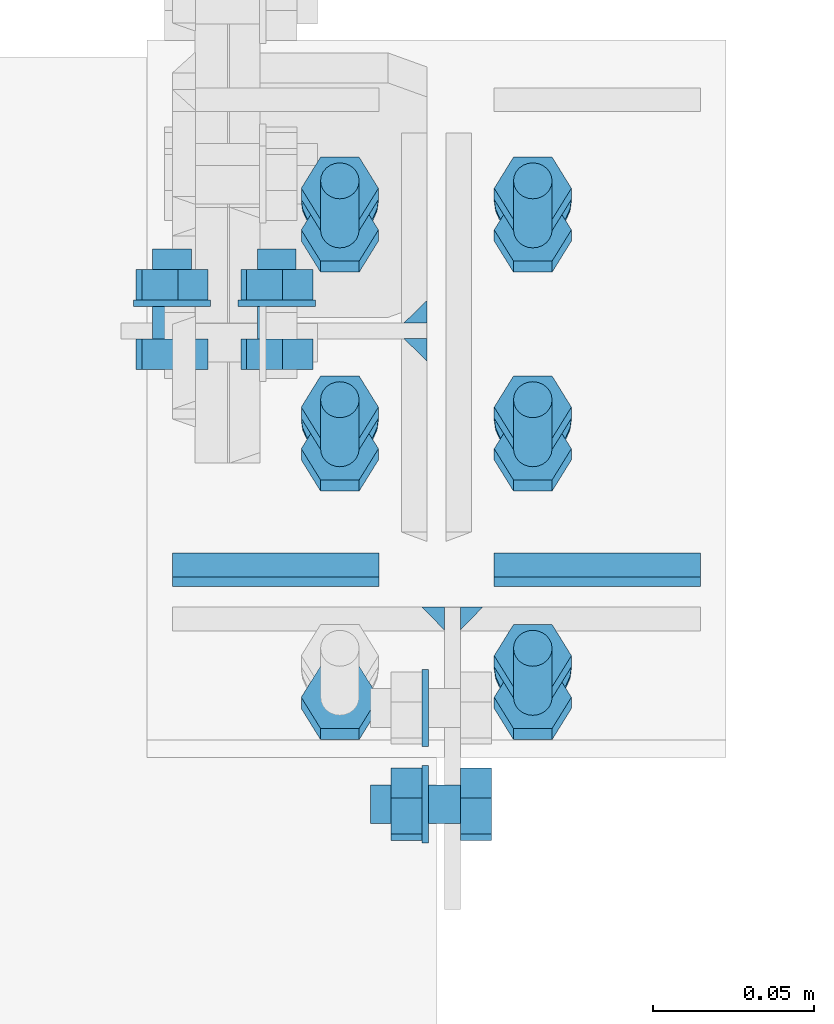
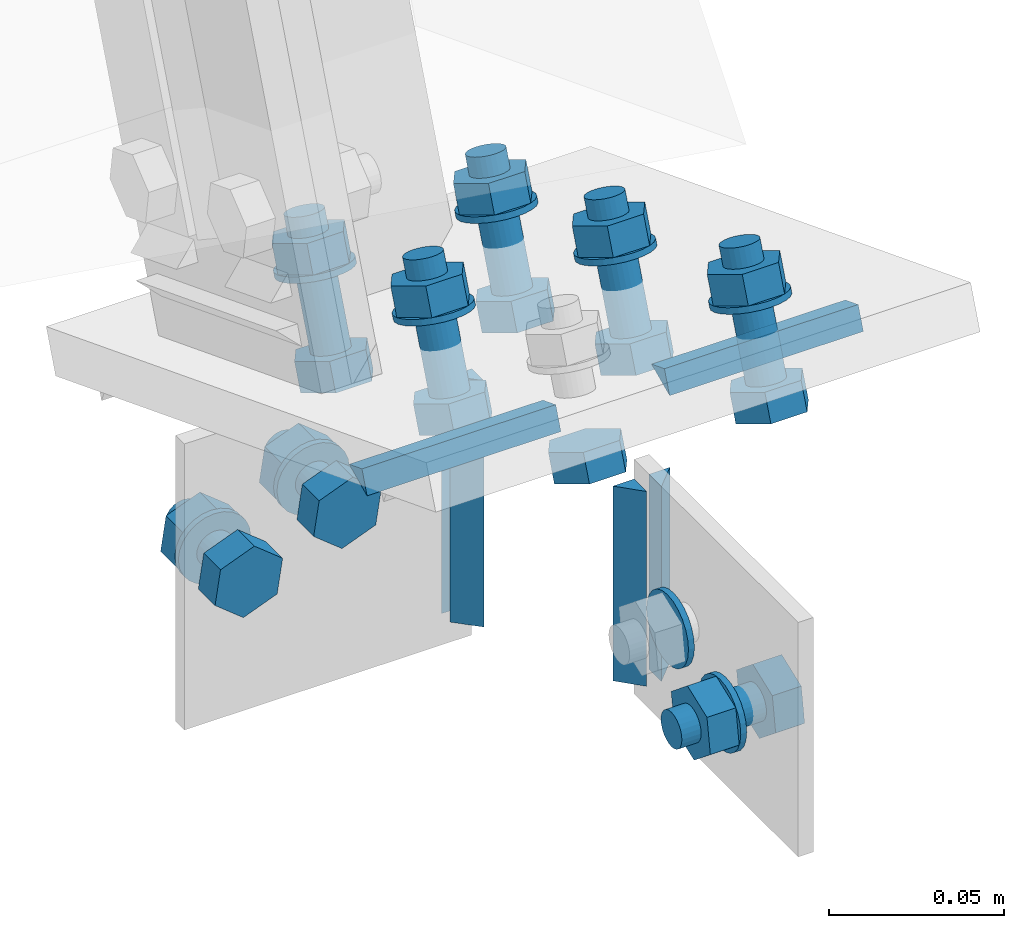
# One storey, part 69 of 72: 34 mechanical fasteners, 8 fasteners.
"""IFC4 building model written with IfcOpenShell, lengths in metres."""

from ifc_helpers import new_model, si_unit, frame, origin_with_axes, place, context, project, spatial, polyline, outline, extrude, type_object, element, save


model = new_model("IFC4")

# Units and contexts
model_context = context("Model", 3, precision=1e-05, world=origin_with_axes())
ifc_project = project(units=[si_unit("LENGTHUNIT", "METRE"), si_unit("AREAUNIT", "SQUARE_METRE"), si_unit("VOLUMEUNIT", "CUBIC_METRE"), si_unit("MASSUNIT", "GRAM", prefix="KILO"), si_unit("TIMEUNIT", "SECOND"), si_unit("PLANEANGLEUNIT", "RADIAN"), si_unit("SOLIDANGLEUNIT", "STERADIAN"), si_unit("THERMODYNAMICTEMPERATUREUNIT", "DEGREE_CELSIUS")], contexts=[model_context])

# Site, building, storey
placement_1 = place(None, origin_with_axes())
site = spatial("IfcSite", under=ifc_project, at=placement_1, Name="Italia", CompositionType="ELEMENT")
building = spatial("IfcBuilding", under=site, at=placement_1, Name="Uffici", CompositionType="ELEMENT")
storey = spatial("IfcBuildingStorey", under=building, at=placement_1, Name="Storey 0", CompositionType="ELEMENT", Elevation=0.0)

# Mechanical fasteners
mechanical_fastener_type_1 = type_object("IfcMechanicalFastenerType", Name="Collegamento 0210_0105", PredefinedType="BOLT")
placement_2 = place(placement_1, origin_with_axes())
mechanical_fastener_1_placement = place(placement_2, origin_with_axes())
element("IfcMechanicalFastener", 1, at=mechanical_fastener_1_placement, inside=storey, type_object=mechanical_fastener_type_1, Name="Collegamento 0210_0105", NominalDiameter=0.024, context=model_context, shape_type="SweptSolid", body=[
    extrude(outline(polyline([(0.0, 0.0), (-0.000409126, -0.00310564), (-0.00160789, -0.00600004), (-0.00351477, -0.00848532), (-0.00600004, -0.0103922), (-0.00889444, -0.011591), (-0.0120001, -0.0120001), (-0.0151057, -0.011591), (-0.0180001, -0.0103922), (-0.0204854, -0.00848532), (-0.0223923, -0.00600004), (-0.023591, -0.00310564), (-0.0240002, 0.0), (-0.023591, 0.00310564), (-0.0223923, 0.00600004), (-0.0204854, 0.00848532), (-0.0180001, 0.0103922), (-0.0151057, 0.011591), (-0.0120001, 0.0120001), (-0.00889444, 0.011591), (-0.00600004, 0.0103922), (-0.00351477, 0.00848532), (-0.00160789, 0.00600004), (-0.000409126, 0.00310564), (0.0, 0.0)])), frame((13.9655, 4.7097, 5.09225), z_axis=(1.0, 0.0, 0.0), x_axis=(0.0, 1.0, 0.0)), (0.0, 0.0, 1.0), 0.00200081),
])
mechanical_fastener_type_2 = type_object("IfcMechanicalFastenerType", Name="Collegamento 0210_0105", PredefinedType="BOLT")
mechanical_fastener_2_placement = place(placement_2, origin_with_axes())
element("IfcMechanicalFastener", 2, at=mechanical_fastener_2_placement, inside=storey, type_object=mechanical_fastener_type_2, Name="Collegamento 0210_0105", NominalDiameter=0.0119996, context=model_context, shape_type="SweptSolid", body=[
    extrude(outline(polyline([(0.0, 0.0), (0.0112205, 0.00425529), (0.0131454, 0.0160995), (0.00385046, 0.0236893), (-0.00736952, 0.0194345), (-0.00929499, 0.00758982), (0.0, 0.0)])), frame((13.9775, 4.66585, 5.06906), z_axis=(1.0, 0.0, 0.0), x_axis=(0.0, 1.0, 0.0)), (0.0, 0.0, 1.0), 0.00960064),
])
mechanical_fastener_type_3 = type_object("IfcMechanicalFastenerType", Name="Collegamento 0210_0105", PredefinedType="BOLT")
mechanical_fastener_3_placement = place(placement_2, origin_with_axes())
element("IfcMechanicalFastener", 3, at=mechanical_fastener_3_placement, inside=storey, type_object=mechanical_fastener_type_3, Name="Collegamento 0210_0105", NominalDiameter=0.012, context=model_context, shape_type="SweptSolid", body=[
    extrude(outline(polyline([(0.0, 0.0), (-0.000204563, -0.00155306), (-0.000803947, -0.00299978), (-0.00175762, -0.00424242), (-0.00300026, -0.00519609), (-0.00444698, -0.00579548), (-0.00600004, -0.00600004), (-0.0075531, -0.00579548), (-0.00899982, -0.00519609), (-0.0102425, -0.00424242), (-0.0111961, -0.00299978), (-0.0117955, -0.00155306), (-0.0120001, 0.0), (-0.0117955, 0.00155306), (-0.0111961, 0.00299978), (-0.0102425, 0.00424242), (-0.00899982, 0.00519609), (-0.0075531, 0.00579548), (-0.00600004, 0.00600004), (-0.00444698, 0.00579548), (-0.00300026, 0.00519609), (-0.00175762, 0.00424242), (-0.000803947, 0.00299978), (-0.000204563, 0.00155306), (0.0, 0.0)])), frame((13.9495, 4.67377, 5.0809), z_axis=(1.0, 0.0, 0.0), x_axis=(0.0, 1.0, 0.0)), (0.0, 0.0, 1.0), 0.0279999),
])
mechanical_fastener_type_4 = type_object("IfcMechanicalFastenerType", Name="Collegamento 0210_0105", PredefinedType="BOLT")
mechanical_fastener_4_placement = place(placement_2, origin_with_axes())
element("IfcMechanicalFastener", 4, at=mechanical_fastener_4_placement, inside=storey, type_object=mechanical_fastener_type_4, Name="Collegamento 0210_0105", NominalDiameter=0.0119996, context=model_context, shape_type="SweptSolid", body=[
    extrude(outline(polyline([(0.0, 0.0), (0.0112205, 0.00425529), (0.0131454, 0.0160995), (0.00385046, 0.0236893), (-0.00736952, 0.0194345), (-0.00929499, 0.00758982), (0.0, 0.0)])), frame((13.9559, 4.66585, 5.06906), z_axis=(1.0, 0.0, 0.0), x_axis=(0.0, 1.0, 0.0)), (0.0, 0.0, 1.0), 0.00959969),
])
mechanical_fastener_type_5 = type_object("IfcMechanicalFastenerType", Name="Collegamento 0210_0105", PredefinedType="BOLT")
mechanical_fastener_5_placement = place(placement_2, origin_with_axes())
element("IfcMechanicalFastener", 5, at=mechanical_fastener_5_placement, inside=storey, type_object=mechanical_fastener_type_5, Name="Collegamento 0210_0105", NominalDiameter=0.024, context=model_context, shape_type="SweptSolid", body=[
    extrude(outline(polyline([(0.0, 0.0), (-0.000409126, -0.00310564), (-0.00160789, -0.00600004), (-0.00351477, -0.00848532), (-0.00600004, -0.0103922), (-0.00889444, -0.011591), (-0.0120001, -0.0120001), (-0.0151057, -0.011591), (-0.0180001, -0.0103922), (-0.0204854, -0.00848532), (-0.0223923, -0.00600004), (-0.023591, -0.00310564), (-0.0240002, 0.0), (-0.023591, 0.00310564), (-0.0223923, 0.00600004), (-0.0204854, 0.00848532), (-0.0180001, 0.0103922), (-0.0151057, 0.011591), (-0.0120001, 0.0120001), (-0.00889444, 0.011591), (-0.00600004, 0.0103922), (-0.00351477, 0.00848532), (-0.00160789, 0.00600004), (-0.000409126, 0.00310564), (0.0, 0.0)])), frame((13.9655, 4.67977, 5.0809), z_axis=(1.0, 0.0, 0.0), x_axis=(0.0, 1.0, 0.0)), (0.0, 0.0, 1.0), 0.00200081),
])

# Fasteners
fastener_type_1 = type_object("IfcFastenerType", Name="Collegamento 0210_0105", PredefinedType="WELD")
fastener_1_placement = place(placement_2, origin_with_axes())
element("IfcFastener", 6, at=fastener_1_placement, inside=storey, type_object=fastener_type_1, Name="Collegamento 0210_0105", context=model_context, shape_type="SweptSolid", body=[
    extrude(outline(polyline([(0.0, 0.0), (-0.00717354, 0.00695801), (0.0, 0.00695801), (0.0, 0.0)])), frame((13.9656, 4.72905, 5.12317), z_axis=(0.0, 0.0, -1.0), x_axis=(0.0, 1.0, 0.0)), (0.0, 0.0, 1.0), 0.0681),
])
fastener_type_2 = type_object("IfcFastenerType", Name="Collegamento 0210_0105", PredefinedType="WELD")
fastener_2_placement = place(placement_2, origin_with_axes())
element("IfcFastener", 7, at=fastener_2_placement, inside=storey, type_object=fastener_type_2, Name="Collegamento 0210_0105", context=model_context, shape_type="SweptSolid", body=[
    extrude(outline(polyline([(0.0, 0.0), (-0.00717354, 0.00695801), (0.0, 0.00695801), (0.0, 0.0)])), frame((13.9844, 4.72905, 5.05507), z_axis=(0.0, 0.0, 1.0), x_axis=(0.0, 1.0, 0.0)), (0.0, 0.0, 1.0), 0.0681005),
])

# Mechanical fasteners
mechanical_fastener_type_6 = type_object("IfcMechanicalFastenerType", Name="Collegamento 0210_0109", PredefinedType="BOLT")
mechanical_fastener_6_placement = place(placement_2, origin_with_axes())
element("IfcMechanicalFastener", 8, at=mechanical_fastener_6_placement, inside=storey, type_object=mechanical_fastener_type_6, Name="Collegamento 0210_0109", NominalDiameter=0.0119997, context=model_context, shape_type="SweptSolid", body=[
    extrude(outline(polyline([(0.0, 0.0), (0.0111799, 0.00436068), (0.0129938, 0.0162225), (0.00362778, 0.0237246), (-0.00755215, 0.0193644), (-0.00936604, 0.00750208), (0.0, 0.0)])), frame((13.9186, 4.8125, 5.07298), z_axis=(0.0, -1.0, 0.0), x_axis=(1.0, 0.0, 0.0)), (0.0, 0.0, 1.0), 0.00959969),
])
mechanical_fastener_type_7 = type_object("IfcMechanicalFastenerType", Name="Collegamento 0210_0109", PredefinedType="BOLT")
mechanical_fastener_7_placement = place(placement_2, origin_with_axes())
element("IfcMechanicalFastener", 9, at=mechanical_fastener_7_placement, inside=storey, type_object=mechanical_fastener_type_7, Name="Collegamento 0210_0109", NominalDiameter=0.012, context=model_context, shape_type="SweptSolid", body=[
    extrude(outline(polyline([(0.0, 0.0), (-0.000204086, -0.00155306), (-0.000802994, -0.00299978), (-0.00175667, -0.00424242), (-0.00299931, -0.00519609), (-0.00444698, -0.00579548), (-0.00599957, -0.00600004), (-0.00755215, -0.00579548), (-0.00899982, -0.00519609), (-0.0102425, -0.00424242), (-0.0111961, -0.00299978), (-0.011795, -0.00155306), (-0.0119991, 0.0), (-0.011795, 0.00155306), (-0.0111961, 0.00299978), (-0.0102425, 0.00424242), (-0.00899982, 0.00519609), (-0.00755215, 0.00579548), (-0.00599957, 0.00600004), (-0.00444698, 0.00579548), (-0.00299931, 0.00519609), (-0.00175667, 0.00424242), (-0.000802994, 0.00299978), (-0.000204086, 0.00155306), (0.0, 0.0)])), frame((13.9264, 4.8405, 5.08484), z_axis=(0.0, -1.0, 0.0), x_axis=(1.0, 0.0, 0.0)), (0.0, 0.0, 1.0), 0.0280004),
])
mechanical_fastener_type_8 = type_object("IfcMechanicalFastenerType", Name="Collegamento 0210_0109", PredefinedType="BOLT")
mechanical_fastener_8_placement = place(placement_2, origin_with_axes())
element("IfcMechanicalFastener", 10, at=mechanical_fastener_8_placement, inside=storey, type_object=mechanical_fastener_type_8, Name="Collegamento 0210_0109", NominalDiameter=0.0119997, context=model_context, shape_type="SweptSolid", body=[
    extrude(outline(polyline([(0.0, 0.0), (0.0111799, 0.00436068), (0.0129938, 0.0162225), (0.00362778, 0.0237246), (-0.00755215, 0.0193644), (-0.00936604, 0.00750208), (0.0, 0.0)])), frame((13.9186, 4.8341, 5.07298), z_axis=(0.0, -1.0, 0.0), x_axis=(1.0, 0.0, 0.0)), (0.0, 0.0, 1.0), 0.00960016),
])
mechanical_fastener_type_9 = type_object("IfcMechanicalFastenerType", Name="Collegamento 0210_0109", PredefinedType="BOLT")
mechanical_fastener_9_placement = place(placement_2, origin_with_axes())
element("IfcMechanicalFastener", 11, at=mechanical_fastener_9_placement, inside=storey, type_object=mechanical_fastener_type_9, Name="Collegamento 0210_0109", NominalDiameter=0.024, context=model_context, shape_type="SweptSolid", body=[
    extrude(outline(polyline([(0.0, 0.0), (-0.000409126, -0.00310564), (-0.00160789, -0.00600004), (-0.00351524, -0.00848532), (-0.00600052, -0.0103922), (-0.00889397, -0.011591), (-0.0120001, -0.0120001), (-0.0151062, -0.011591), (-0.0179996, -0.0103922), (-0.0204849, -0.00848532), (-0.0223923, -0.00600004), (-0.023591, -0.00310564), (-0.0240002, 0.0), (-0.023591, 0.00310564), (-0.0223923, 0.00600004), (-0.0204849, 0.00848532), (-0.0179996, 0.0103922), (-0.0151062, 0.011591), (-0.0120001, 0.0120001), (-0.00889397, 0.011591), (-0.00600052, 0.0103922), (-0.00351524, 0.00848532), (-0.00160789, 0.00600004), (-0.000409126, 0.00310564), (0.0, 0.0)])), frame((13.9324, 4.8245, 5.08484), z_axis=(0.0, -1.0, 0.0), x_axis=(1.0, 0.0, 0.0)), (0.0, 0.0, 1.0), 0.00199986),
])
mechanical_fastener_type_10 = type_object("IfcMechanicalFastenerType", Name="Collegamento 0210_0109", PredefinedType="BOLT")
mechanical_fastener_10_placement = place(placement_2, origin_with_axes())
element("IfcMechanicalFastener", 12, at=mechanical_fastener_10_placement, inside=storey, type_object=mechanical_fastener_type_10, Name="Collegamento 0210_0109", NominalDiameter=0.0119992, context=model_context, shape_type="SweptSolid", body=[
    extrude(outline(polyline([(0.0, 0.0), (0.0111799, 0.0043602), (0.0129929, 0.0162225), (0.00362682, 0.0237241), (-0.00755215, 0.0193639), (-0.00936604, 0.0075016), (0.0, 0.0)])), frame((13.886, 4.8125, 5.06026), z_axis=(0.0, -1.0, 0.0), x_axis=(1.0, 0.0, 0.0)), (0.0, 0.0, 1.0), 0.00959969),
])
mechanical_fastener_type_11 = type_object("IfcMechanicalFastenerType", Name="Collegamento 0210_0109", PredefinedType="BOLT")
mechanical_fastener_11_placement = place(placement_2, origin_with_axes())
element("IfcMechanicalFastener", 13, at=mechanical_fastener_11_placement, inside=storey, type_object=mechanical_fastener_type_11, Name="Collegamento 0210_0109", NominalDiameter=0.012, context=model_context, shape_type="SweptSolid", body=[
    extrude(outline(polyline([(0.0, 0.0), (-0.000204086, -0.00155306), (-0.000802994, -0.00299978), (-0.00175667, -0.00424242), (-0.00299931, -0.00519609), (-0.00444698, -0.00579548), (-0.00599957, -0.00600004), (-0.00755215, -0.00579548), (-0.00899982, -0.00519609), (-0.0102425, -0.00424242), (-0.0111961, -0.00299978), (-0.011795, -0.00155306), (-0.0119991, 0.0), (-0.011795, 0.00155306), (-0.0111961, 0.00299978), (-0.0102425, 0.00424242), (-0.00899982, 0.00519609), (-0.00755215, 0.00579548), (-0.00599957, 0.00600004), (-0.00444698, 0.00579548), (-0.00299931, 0.00519609), (-0.00175667, 0.00424242), (-0.000802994, 0.00299978), (-0.000204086, 0.00155306), (0.0, 0.0)])), frame((13.8938, 4.8405, 5.07212), z_axis=(0.0, -1.0, 0.0), x_axis=(1.0, 0.0, 0.0)), (0.0, 0.0, 1.0), 0.0280004),
])
mechanical_fastener_type_12 = type_object("IfcMechanicalFastenerType", Name="Collegamento 0210_0109", PredefinedType="BOLT")
mechanical_fastener_12_placement = place(placement_2, origin_with_axes())
element("IfcMechanicalFastener", 14, at=mechanical_fastener_12_placement, inside=storey, type_object=mechanical_fastener_type_12, Name="Collegamento 0210_0109", NominalDiameter=0.0119992, context=model_context, shape_type="SweptSolid", body=[
    extrude(outline(polyline([(0.0, 0.0), (0.0111799, 0.0043602), (0.0129929, 0.0162225), (0.00362682, 0.0237241), (-0.00755215, 0.0193639), (-0.00936604, 0.0075016), (0.0, 0.0)])), frame((13.886, 4.8341, 5.06026), z_axis=(0.0, -1.0, 0.0), x_axis=(1.0, 0.0, 0.0)), (0.0, 0.0, 1.0), 0.00960016),
])
mechanical_fastener_type_13 = type_object("IfcMechanicalFastenerType", Name="Collegamento 0210_0109", PredefinedType="BOLT")
mechanical_fastener_13_placement = place(placement_2, origin_with_axes())
element("IfcMechanicalFastener", 15, at=mechanical_fastener_13_placement, inside=storey, type_object=mechanical_fastener_type_13, Name="Collegamento 0210_0109", NominalDiameter=0.024, context=model_context, shape_type="SweptSolid", body=[
    extrude(outline(polyline([(0.0, 0.0), (-0.000409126, -0.00310564), (-0.00160789, -0.00600004), (-0.00351524, -0.00848532), (-0.00600052, -0.0103922), (-0.00889397, -0.011591), (-0.0120001, -0.0120001), (-0.0151062, -0.011591), (-0.0179996, -0.0103922), (-0.0204849, -0.00848532), (-0.0223923, -0.00600004), (-0.023591, -0.00310564), (-0.0240002, 0.0), (-0.023591, 0.00310564), (-0.0223923, 0.00600004), (-0.0204849, 0.00848532), (-0.0179996, 0.0103922), (-0.0151062, 0.011591), (-0.0120001, 0.0120001), (-0.00889397, 0.011591), (-0.00600052, 0.0103922), (-0.00351524, 0.00848532), (-0.00160789, 0.00600004), (-0.000409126, 0.00310564), (0.0, 0.0)])), frame((13.8998, 4.8245, 5.07212), z_axis=(0.0, -1.0, 0.0), x_axis=(1.0, 0.0, 0.0)), (0.0, 0.0, 1.0), 0.00199986),
])

# Fasteners
fastener_type_3 = type_object("IfcFastenerType", Name="Collegamento 0210_0109", PredefinedType="WELD")
fastener_3_placement = place(placement_2, origin_with_axes())
element("IfcFastener", 16, at=fastener_3_placement, inside=storey, type_object=fastener_type_3, Name="Collegamento 0210_0109", context=model_context, shape_type="SweptSolid", body=[
    extrude(outline(polyline([(0.0, 0.0), (-0.00695801, -0.00717258), (-0.00695801, 0.0), (0.0, 0.0)])), frame((13.9671, 4.82441, 5.11306), z_axis=(0.0, 0.0, -1.0), x_axis=(0.0, 1.0, 0.0)), (0.0, 0.0, 1.0), 0.0861006),
])
fastener_type_4 = type_object("IfcFastenerType", Name="Collegamento 0210_0109", PredefinedType="WELD")
fastener_4_placement = place(placement_2, origin_with_axes())
element("IfcFastener", 17, at=fastener_4_placement, inside=storey, type_object=fastener_type_4, Name="Collegamento 0210_0109", context=model_context, shape_type="SweptSolid", body=[
    extrude(outline(polyline([(0.0, 0.0), (0.00695801, 0.00717258), (0.00695801, 0.0), (0.0, 0.0)])), frame((13.9671, 4.80559, 5.02696), z_axis=(0.0, 0.0, 1.0), x_axis=(0.0, 1.0, 0.0)), (0.0, 0.0, 1.0), 0.0861011),
])
fastener_type_5 = type_object("IfcFastenerType", Name="Collegamento 0210_0110", PredefinedType="WELD")
fastener_5_placement = place(placement_2, origin_with_axes())
element("IfcFastener", 18, at=fastener_5_placement, inside=storey, type_object=fastener_type_5, Name="Collegamento 0210_0110", context=model_context, shape_type="SweptSolid", body=[
    extrude(outline(polyline([(0.0, 0.0), (-0.0103469, -0.00475454), (-0.00739193, 0.00286627), (0.0, 0.0)])), frame((13.988, 4.74586, 5.14777), z_axis=(1.0, 0.0, 0.0), x_axis=(0.0, 1.0, 0.0)), (0.0, 0.0, 1.0), 0.0641003),
])
fastener_type_6 = type_object("IfcFastenerType", Name="Collegamento 0210_0110", PredefinedType="WELD")
fastener_6_placement = place(placement_2, origin_with_axes())
element("IfcFastener", 19, at=fastener_6_placement, inside=storey, type_object=fastener_type_6, Name="Collegamento 0210_0110", context=model_context, shape_type="SweptSolid", body=[
    extrude(outline(polyline([(0.0, 0.0), (-0.0103469, -0.00475454), (-0.00739193, 0.00286627), (0.0, 0.0)])), frame((13.888, 4.74586, 5.14777), z_axis=(1.0, 0.0, 0.0), x_axis=(0.0, 1.0, 0.0)), (0.0, 0.0, 1.0), 0.0641003),
])
fastener_type_7 = type_object("IfcFastenerType", Name="Collegamento 0210_0110", PredefinedType="WELD")
fastener_7_placement = place(placement_2, origin_with_axes())
element("IfcFastener", 20, at=fastener_7_placement, inside=storey, type_object=fastener_type_7, Name="Collegamento 0210_0110", context=model_context, shape_type="SweptSolid", body=[
    extrude(outline(polyline([(0.0, 0.0), (-0.0103469, -0.00475454), (-0.00739193, 0.00286627), (0.0, 0.0)])), frame((13.988, 4.74586, 5.14777), z_axis=(1.0, 0.0, 0.0), x_axis=(0.0, 1.0, 0.0)), (0.0, 0.0, 1.0), 0.0641003),
])
fastener_type_8 = type_object("IfcFastenerType", Name="Collegamento 0210_0110", PredefinedType="WELD")
fastener_8_placement = place(placement_2, origin_with_axes())
element("IfcFastener", 21, at=fastener_8_placement, inside=storey, type_object=fastener_type_8, Name="Collegamento 0210_0110", context=model_context, shape_type="SweptSolid", body=[
    extrude(outline(polyline([(0.0, 0.0), (-0.0103469, -0.00475454), (-0.00739193, 0.00286627), (0.0, 0.0)])), frame((13.888, 4.74586, 5.14777), z_axis=(1.0, 0.0, 0.0), x_axis=(0.0, 1.0, 0.0)), (0.0, 0.0, 1.0), 0.0641003),
])

# Mechanical fasteners
mechanical_fastener_type_14 = type_object("IfcMechanicalFastenerType", Name="Collegamento 0210_0110", PredefinedType="BOLT")
mechanical_fastener_14_placement = place(placement_2, origin_with_axes())
element("IfcMechanicalFastener", 22, at=mechanical_fastener_14_placement, inside=storey, type_object=mechanical_fastener_type_14, Name="Collegamento 0210_0110", NominalDiameter=0.0119997, context=model_context, shape_type="SweptSolid", body=[
    extrude(outline(polyline([(0.0, 0.0), (0.0120001, 0.0), (0.0179996, -0.0103922), (0.0120001, -0.0207846), (0.0, -0.0207846), (-0.00600052, -0.0103922), (0.0, 0.0)])), frame((13.994, 4.76862, 5.1389), z_axis=(0.0, -0.361504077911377, -0.932370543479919), x_axis=(1.0, 0.0, 0.0)), (0.0, 0.0, 1.0), 0.00959995),
])
mechanical_fastener_type_15 = type_object("IfcMechanicalFastenerType", Name="Collegamento 0210_0110", PredefinedType="BOLT")
mechanical_fastener_15_placement = place(placement_2, origin_with_axes())
element("IfcMechanicalFastener", 23, at=mechanical_fastener_15_placement, inside=storey, type_object=mechanical_fastener_type_15, Name="Collegamento 0210_0110", NominalDiameter=0.012, context=model_context, shape_type="SweptSolid", body=[
    extrude(outline(polyline([(0.0, 0.0), (-0.000204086, -0.00155282), (-0.000802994, -0.00300002), (-0.00175667, -0.00424314), (-0.00299931, -0.00519633), (-0.00444698, -0.00579524), (-0.00599957, -0.0059998), (-0.00755215, -0.00579524), (-0.00899982, -0.00519633), (-0.0102425, -0.00424314), (-0.0111961, -0.00300002), (-0.011795, -0.00155282), (-0.0119991, 0.0), (-0.011795, 0.00155282), (-0.0111961, 0.00300002), (-0.0102425, 0.0042429), (-0.00899982, 0.00519633), (-0.00755215, 0.00579572), (-0.00599957, 0.0059998), (-0.00444698, 0.00579572), (-0.00299931, 0.00519633), (-0.00175667, 0.0042429), (-0.000802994, 0.00300002), (-0.000204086, 0.00155282), (0.0, 0.0)])), frame((14.006, 4.79357, 5.17448), z_axis=(0.0, -0.361535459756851, -0.932358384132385), x_axis=(1.0, 0.0, 0.0)), (0.0, 0.0, 1.0), 0.0422002),
])
mechanical_fastener_type_16 = type_object("IfcMechanicalFastenerType", Name="Collegamento 0210_0110", PredefinedType="BOLT")
mechanical_fastener_16_placement = place(placement_2, origin_with_axes())
element("IfcMechanicalFastener", 24, at=mechanical_fastener_16_placement, inside=storey, type_object=mechanical_fastener_type_16, Name="Collegamento 0210_0110", NominalDiameter=0.0119997, context=model_context, shape_type="SweptSolid", body=[
    extrude(outline(polyline([(0.0, 0.0), (0.0120001, 0.0), (0.0179996, -0.0103917), (0.0120001, -0.0207844), (0.0, -0.0207844), (-0.00600052, -0.0103917), (0.0, 0.0)])), frame((13.994, 4.78156, 5.17227), z_axis=(0.0, -0.361547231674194, -0.932353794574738), x_axis=(1.0, 0.0, 0.0)), (0.0, 0.0, 1.0), 0.00960012),
])
mechanical_fastener_type_17 = type_object("IfcMechanicalFastenerType", Name="Collegamento 0210_0110", PredefinedType="BOLT")
mechanical_fastener_17_placement = place(placement_2, origin_with_axes())
element("IfcMechanicalFastener", 25, at=mechanical_fastener_17_placement, inside=storey, type_object=mechanical_fastener_type_17, Name="Collegamento 0210_0110", NominalDiameter=0.024, context=model_context, shape_type="SweptSolid", body=[
    extrude(outline(polyline([(0.0, 0.0), (-0.000409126, -0.00310612), (-0.00160789, -0.00600004), (-0.00351524, -0.00848579), (-0.00600052, -0.0103927), (-0.00889397, -0.0115914), (-0.0120001, -0.0120001), (-0.0151062, -0.0115914), (-0.0179996, -0.0103927), (-0.0204849, -0.00848579), (-0.0223923, -0.00600004), (-0.023591, -0.00310612), (-0.0240002, 0.0), (-0.023591, 0.00310564), (-0.0223923, 0.00600004), (-0.0204849, 0.00848532), (-0.0179996, 0.0103922), (-0.0151062, 0.0115914), (-0.0120001, 0.0119996), (-0.00889397, 0.0115914), (-0.00600052, 0.0103922), (-0.00351524, 0.00848532), (-0.00160789, 0.00600004), (-0.000409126, 0.00310564), (0.0, 0.0)])), frame((14.012, 4.78778, 5.15957), z_axis=(0.0, -0.361341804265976, -0.932433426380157), x_axis=(1.0, 0.0, 0.0)), (0.0, 0.0, 1.0), 0.00200056),
])
mechanical_fastener_type_18 = type_object("IfcMechanicalFastenerType", Name="Collegamento 0210_0110", PredefinedType="BOLT")
mechanical_fastener_18_placement = place(placement_2, origin_with_axes())
element("IfcMechanicalFastener", 26, at=mechanical_fastener_18_placement, inside=storey, type_object=mechanical_fastener_type_18, Name="Collegamento 0210_0110", NominalDiameter=0.0119997, context=model_context, shape_type="SweptSolid", body=[
    extrude(outline(polyline([(0.0, 0.0), (0.0120001, 0.0), (0.0180006, -0.0103922), (0.0120001, -0.0207846), (0.0, -0.0207846), (-0.00599957, -0.0103922), (0.0, 0.0)])), frame((13.934, 4.76862, 5.1389), z_axis=(0.0, -0.361504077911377, -0.932370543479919), x_axis=(1.0, 0.0, 0.0)), (0.0, 0.0, 1.0), 0.00959995),
])
mechanical_fastener_type_19 = type_object("IfcMechanicalFastenerType", Name="Collegamento 0210_0110", PredefinedType="BOLT")
mechanical_fastener_19_placement = place(placement_2, origin_with_axes())
element("IfcMechanicalFastener", 27, at=mechanical_fastener_19_placement, inside=storey, type_object=mechanical_fastener_type_19, Name="Collegamento 0210_0110", NominalDiameter=0.012, context=model_context, shape_type="SweptSolid", body=[
    extrude(outline(polyline([(0.0, 0.0), (-0.000204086, -0.00155282), (-0.000802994, -0.00300002), (-0.00175667, -0.00424314), (-0.00299931, -0.00519633), (-0.00444698, -0.00579524), (-0.00599957, -0.0059998), (-0.00755215, -0.00579524), (-0.00899982, -0.00519633), (-0.0102425, -0.00424314), (-0.0111961, -0.00300002), (-0.011795, -0.00155282), (-0.0119991, 0.0), (-0.011795, 0.00155282), (-0.0111961, 0.00300002), (-0.0102425, 0.0042429), (-0.00899982, 0.00519633), (-0.00755215, 0.00579572), (-0.00599957, 0.0059998), (-0.00444698, 0.00579572), (-0.00299931, 0.00519633), (-0.00175667, 0.0042429), (-0.000802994, 0.00300002), (-0.000204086, 0.00155282), (0.0, 0.0)])), frame((13.946, 4.79357, 5.17448), z_axis=(0.0, -0.361535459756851, -0.932358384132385), x_axis=(1.0, 0.0, 0.0)), (0.0, 0.0, 1.0), 0.0422002),
])
mechanical_fastener_type_20 = type_object("IfcMechanicalFastenerType", Name="Collegamento 0210_0110", PredefinedType="BOLT")
mechanical_fastener_20_placement = place(placement_2, origin_with_axes())
element("IfcMechanicalFastener", 28, at=mechanical_fastener_20_placement, inside=storey, type_object=mechanical_fastener_type_20, Name="Collegamento 0210_0110", NominalDiameter=0.0119997, context=model_context, shape_type="SweptSolid", body=[
    extrude(outline(polyline([(0.0, 0.0), (0.0120001, 0.0), (0.0180006, -0.0103927), (0.0120001, -0.0207846), (0.0, -0.0207846), (-0.00599957, -0.0103927), (0.0, 0.0)])), frame((13.934, 4.78156, 5.17227), z_axis=(0.0, -0.361563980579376, -0.932347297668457), x_axis=(1.0, 0.0, 0.0)), (0.0, 0.0, 1.0), 0.00959968),
])
mechanical_fastener_type_21 = type_object("IfcMechanicalFastenerType", Name="Collegamento 0210_0110", PredefinedType="BOLT")
mechanical_fastener_21_placement = place(placement_2, origin_with_axes())
element("IfcMechanicalFastener", 29, at=mechanical_fastener_21_placement, inside=storey, type_object=mechanical_fastener_type_21, Name="Collegamento 0210_0110", NominalDiameter=0.024, context=model_context, shape_type="SweptSolid", body=[
    extrude(outline(polyline([(0.0, 0.0), (-0.000409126, -0.00310612), (-0.00160789, -0.00600004), (-0.00351524, -0.00848579), (-0.00600052, -0.0103927), (-0.00889397, -0.0115914), (-0.0120001, -0.0120001), (-0.0151062, -0.0115914), (-0.0179996, -0.0103927), (-0.0204849, -0.00848579), (-0.0223923, -0.00600004), (-0.023591, -0.00310612), (-0.0240002, 0.0), (-0.023591, 0.00310564), (-0.0223923, 0.00600004), (-0.0204849, 0.00848532), (-0.0179996, 0.0103922), (-0.0151062, 0.0115914), (-0.0120001, 0.0119996), (-0.00889397, 0.0115914), (-0.00600052, 0.0103922), (-0.00351524, 0.00848532), (-0.00160789, 0.00600004), (-0.000409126, 0.00310564), (0.0, 0.0)])), frame((13.952, 4.78778, 5.15957), z_axis=(0.0, -0.361341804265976, -0.932433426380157), x_axis=(1.0, 0.0, 0.0)), (0.0, 0.0, 1.0), 0.00200056),
])
mechanical_fastener_type_22 = type_object("IfcMechanicalFastenerType", Name="Collegamento 0210_0110", PredefinedType="BOLT")
mechanical_fastener_22_placement = place(placement_2, origin_with_axes())
element("IfcMechanicalFastener", 30, at=mechanical_fastener_22_placement, inside=storey, type_object=mechanical_fastener_type_22, Name="Collegamento 0210_0110", NominalDiameter=0.0119997, context=model_context, shape_type="SweptSolid", body=[
    extrude(outline(polyline([(0.0, 0.0), (0.0120001, 0.0), (0.0179996, -0.0103922), (0.0120001, -0.0207849), (0.0, -0.0207849), (-0.00600052, -0.0103922), (0.0, 0.0)])), frame((13.994, 4.83668, 5.1125), z_axis=(0.0, -0.361520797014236, -0.932364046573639), x_axis=(1.0, 0.0, 0.0)), (0.0, 0.0, 1.0), 0.0095995),
])
mechanical_fastener_type_23 = type_object("IfcMechanicalFastenerType", Name="Collegamento 0210_0110", PredefinedType="BOLT")
mechanical_fastener_23_placement = place(placement_2, origin_with_axes())
element("IfcMechanicalFastener", 31, at=mechanical_fastener_23_placement, inside=storey, type_object=mechanical_fastener_type_23, Name="Collegamento 0210_0110", NominalDiameter=0.012, context=model_context, shape_type="SweptSolid", body=[
    extrude(outline(polyline([(0.0, 0.0), (-0.000204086, -0.00155306), (-0.000802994, -0.00300002), (-0.00175667, -0.0042429), (-0.00299931, -0.00519657), (-0.00444698, -0.00579596), (-0.00599957, -0.00600052), (-0.00755215, -0.00579596), (-0.00899982, -0.00519657), (-0.0102425, -0.0042429), (-0.0111961, -0.00300002), (-0.011795, -0.00155306), (-0.0119991, 0.0), (-0.011795, 0.00155258), (-0.0111961, 0.00299978), (-0.0102425, 0.0042429), (-0.00899982, 0.00519609), (-0.00755215, 0.00579548), (-0.00599957, 0.00599957), (-0.00444698, 0.00579548), (-0.00299931, 0.00519609), (-0.00175667, 0.0042429), (-0.000802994, 0.00299978), (-0.000204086, 0.00155258), (0.0, 0.0)])), frame((14.006, 4.86163, 5.14809), z_axis=(0.0, -0.361519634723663, -0.932364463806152), x_axis=(1.0, 0.0, 0.0)), (0.0, 0.0, 1.0), 0.0421994),
])
mechanical_fastener_type_24 = type_object("IfcMechanicalFastenerType", Name="Collegamento 0210_0110", PredefinedType="BOLT")
mechanical_fastener_24_placement = place(placement_2, origin_with_axes())
element("IfcMechanicalFastener", 32, at=mechanical_fastener_24_placement, inside=storey, type_object=mechanical_fastener_type_24, Name="Collegamento 0210_0110", NominalDiameter=0.0119997, context=model_context, shape_type="SweptSolid", body=[
    extrude(outline(polyline([(0.0, 0.0), (0.0120001, 0.0), (0.0179996, -0.0103922), (0.0120001, -0.0207846), (0.0, -0.0207846), (-0.00600052, -0.0103922), (0.0, 0.0)])), frame((13.994, 4.84962, 5.14588), z_axis=(0.0, -0.361504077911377, -0.932370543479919), x_axis=(1.0, 0.0, 0.0)), (0.0, 0.0, 1.0), 0.00959995),
])
mechanical_fastener_type_25 = type_object("IfcMechanicalFastenerType", Name="Collegamento 0210_0110", PredefinedType="BOLT")
mechanical_fastener_25_placement = place(placement_2, origin_with_axes())
element("IfcMechanicalFastener", 33, at=mechanical_fastener_25_placement, inside=storey, type_object=mechanical_fastener_type_25, Name="Collegamento 0210_0110", NominalDiameter=0.024, context=model_context, shape_type="SweptSolid", body=[
    extrude(outline(polyline([(0.0, 0.0), (-0.000409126, -0.00310564), (-0.00160789, -0.00600028), (-0.00351524, -0.00848508), (-0.00600052, -0.0103922), (-0.00889397, -0.011591), (-0.0120001, -0.0120001), (-0.0151062, -0.011591), (-0.0179996, -0.0103922), (-0.0204849, -0.00848508), (-0.0223923, -0.00600028), (-0.023591, -0.00310564), (-0.0240002, 0.0), (-0.023591, 0.00310564), (-0.0223923, 0.00600028), (-0.0204849, 0.00848508), (-0.0179996, 0.0103922), (-0.0151062, 0.011591), (-0.0120001, 0.0120001), (-0.00889397, 0.011591), (-0.00600052, 0.0103922), (-0.00351524, 0.00848508), (-0.00160789, 0.00600028), (-0.000409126, 0.00310564), (0.0, 0.0)])), frame((14.012, 4.85584, 5.13317), z_axis=(0.0, -0.361502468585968, -0.932371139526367), x_axis=(1.0, 0.0, 0.0)), (0.0, 0.0, 1.0), 0.00199967),
])
mechanical_fastener_type_26 = type_object("IfcMechanicalFastenerType", Name="Collegamento 0210_0110", PredefinedType="BOLT")
mechanical_fastener_26_placement = place(placement_2, origin_with_axes())
element("IfcMechanicalFastener", 34, at=mechanical_fastener_26_placement, inside=storey, type_object=mechanical_fastener_type_26, Name="Collegamento 0210_0110", NominalDiameter=0.0119999, context=model_context, shape_type="SweptSolid", body=[
    extrude(outline(polyline([(0.0, 0.0), (0.0120001, 0.0), (0.0180006, -0.0103924), (0.0120001, -0.0207853), (0.0, -0.0207853), (-0.00599957, -0.0103924), (0.0, 0.0)])), frame((13.934, 4.83668, 5.1125), z_axis=(0.0, -0.361504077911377, -0.932370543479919), x_axis=(1.0, 0.0, 0.0)), (0.0, 0.0, 1.0), 0.00959995),
])
mechanical_fastener_type_27 = type_object("IfcMechanicalFastenerType", Name="Collegamento 0210_0110", PredefinedType="BOLT")
mechanical_fastener_27_placement = place(placement_2, origin_with_axes())
element("IfcMechanicalFastener", 35, at=mechanical_fastener_27_placement, inside=storey, type_object=mechanical_fastener_type_27, Name="Collegamento 0210_0110", NominalDiameter=0.012, context=model_context, shape_type="SweptSolid", body=[
    extrude(outline(polyline([(0.0, 0.0), (-0.000204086, -0.00155306), (-0.000802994, -0.00300002), (-0.00175667, -0.0042429), (-0.00299931, -0.00519657), (-0.00444698, -0.00579596), (-0.00599957, -0.00600052), (-0.00755215, -0.00579596), (-0.00899982, -0.00519657), (-0.0102425, -0.0042429), (-0.0111961, -0.00300002), (-0.011795, -0.00155306), (-0.0119991, 0.0), (-0.011795, 0.00155258), (-0.0111961, 0.00299978), (-0.0102425, 0.0042429), (-0.00899982, 0.00519609), (-0.00755215, 0.00579548), (-0.00599957, 0.00599957), (-0.00444698, 0.00579548), (-0.00299931, 0.00519609), (-0.00175667, 0.0042429), (-0.000802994, 0.00299978), (-0.000204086, 0.00155258), (0.0, 0.0)])), frame((13.946, 4.86163, 5.14809), z_axis=(0.0, -0.361519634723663, -0.932364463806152), x_axis=(1.0, 0.0, 0.0)), (0.0, 0.0, 1.0), 0.0421994),
])
mechanical_fastener_type_28 = type_object("IfcMechanicalFastenerType", Name="Collegamento 0210_0110", PredefinedType="BOLT")
mechanical_fastener_28_placement = place(placement_2, origin_with_axes())
element("IfcMechanicalFastener", 36, at=mechanical_fastener_28_placement, inside=storey, type_object=mechanical_fastener_type_28, Name="Collegamento 0210_0110", NominalDiameter=0.0119997, context=model_context, shape_type="SweptSolid", body=[
    extrude(outline(polyline([(0.0, 0.0), (0.0120001, 0.0), (0.0180006, -0.0103924), (0.0120001, -0.0207846), (0.0, -0.0207846), (-0.00599957, -0.0103924), (0.0, 0.0)])), frame((13.934, 4.84962, 5.14588), z_axis=(0.0, -0.361520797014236, -0.932364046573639), x_axis=(1.0, 0.0, 0.0)), (0.0, 0.0, 1.0), 0.0095995),
])
mechanical_fastener_type_29 = type_object("IfcMechanicalFastenerType", Name="Collegamento 0210_0110", PredefinedType="BOLT")
mechanical_fastener_29_placement = place(placement_2, origin_with_axes())
element("IfcMechanicalFastener", 37, at=mechanical_fastener_29_placement, inside=storey, type_object=mechanical_fastener_type_29, Name="Collegamento 0210_0110", NominalDiameter=0.024, context=model_context, shape_type="SweptSolid", body=[
    extrude(outline(polyline([(0.0, 0.0), (-0.000409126, -0.00310564), (-0.00160789, -0.00600028), (-0.00351524, -0.00848508), (-0.00600052, -0.0103922), (-0.00889397, -0.011591), (-0.0120001, -0.0120001), (-0.0151062, -0.011591), (-0.0179996, -0.0103922), (-0.0204849, -0.00848508), (-0.0223923, -0.00600028), (-0.023591, -0.00310564), (-0.0240002, 0.0), (-0.023591, 0.00310564), (-0.0223923, 0.00600028), (-0.0204849, 0.00848508), (-0.0179996, 0.0103922), (-0.0151062, 0.011591), (-0.0120001, 0.0120001), (-0.00889397, 0.011591), (-0.00600052, 0.0103922), (-0.00351524, 0.00848508), (-0.00160789, 0.00600028), (-0.000409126, 0.00310564), (0.0, 0.0)])), frame((13.952, 4.85584, 5.13317), z_axis=(0.0, -0.361502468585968, -0.932371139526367), x_axis=(1.0, 0.0, 0.0)), (0.0, 0.0, 1.0), 0.00199967),
])
mechanical_fastener_type_30 = type_object("IfcMechanicalFastenerType", Name="Collegamento 0210_0110", PredefinedType="BOLT")
mechanical_fastener_30_placement = place(placement_2, origin_with_axes())
element("IfcMechanicalFastener", 38, at=mechanical_fastener_30_placement, inside=storey, type_object=mechanical_fastener_type_30, Name="Collegamento 0210_0110", NominalDiameter=0.0119997, context=model_context, shape_type="SweptSolid", body=[
    extrude(outline(polyline([(0.0, 0.0), (0.0120001, 0.0), (0.0179996, -0.0103922), (0.0120001, -0.0207849), (0.0, -0.0207849), (-0.00600052, -0.0103922), (0.0, 0.0)])), frame((13.994, 4.69133, 5.16887), z_axis=(0.0, -0.361547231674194, -0.932353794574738), x_axis=(1.0, 0.0, 0.0)), (0.0, 0.0, 1.0), 0.00960012),
])
mechanical_fastener_type_31 = type_object("IfcMechanicalFastenerType", Name="Collegamento 0210_0110", PredefinedType="BOLT")
mechanical_fastener_31_placement = place(placement_2, origin_with_axes())
element("IfcMechanicalFastener", 39, at=mechanical_fastener_31_placement, inside=storey, type_object=mechanical_fastener_type_31, Name="Collegamento 0210_0110", NominalDiameter=0.012, context=model_context, shape_type="SweptSolid", body=[
    extrude(outline(polyline([(0.0, 0.0), (-0.000204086, -0.00155258), (-0.000802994, -0.00300026), (-0.00175667, -0.0042429), (-0.00299931, -0.00519609), (-0.00444698, -0.00579548), (-0.00599957, -0.00600004), (-0.00755215, -0.00579548), (-0.00899982, -0.00519609), (-0.0102425, -0.0042429), (-0.0111961, -0.00300026), (-0.011795, -0.00155258), (-0.0119991, 0.0), (-0.011795, 0.00155258), (-0.0111961, 0.00299978), (-0.0102425, 0.00424242), (-0.00899982, 0.00519609), (-0.00755215, 0.00579548), (-0.00599957, 0.00600004), (-0.00444698, 0.00579548), (-0.00299931, 0.00519609), (-0.00175667, 0.00424242), (-0.000802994, 0.00299978), (-0.000204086, 0.00155258), (0.0, 0.0)])), frame((14.006, 4.71627, 5.20445), z_axis=(0.0, -0.361519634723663, -0.932364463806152), x_axis=(1.0, 0.0, 0.0)), (0.0, 0.0, 1.0), 0.0421994),
])
mechanical_fastener_type_32 = type_object("IfcMechanicalFastenerType", Name="Collegamento 0210_0110", PredefinedType="BOLT")
mechanical_fastener_32_placement = place(placement_2, origin_with_axes())
element("IfcMechanicalFastener", 40, at=mechanical_fastener_32_placement, inside=storey, type_object=mechanical_fastener_type_32, Name="Collegamento 0210_0110", NominalDiameter=0.0119997, context=model_context, shape_type="SweptSolid", body=[
    extrude(outline(polyline([(0.0, 0.0), (0.0120001, 0.0), (0.0179996, -0.0103922), (0.0120001, -0.0207846), (0.0, -0.0207846), (-0.00600052, -0.0103922), (0.0, 0.0)])), frame((13.994, 4.70427, 5.20224), z_axis=(0.0, -0.361520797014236, -0.932364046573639), x_axis=(1.0, 0.0, 0.0)), (0.0, 0.0, 1.0), 0.0095995),
])
mechanical_fastener_type_33 = type_object("IfcMechanicalFastenerType", Name="Collegamento 0210_0110", PredefinedType="BOLT")
mechanical_fastener_33_placement = place(placement_2, origin_with_axes())
element("IfcMechanicalFastener", 41, at=mechanical_fastener_33_placement, inside=storey, type_object=mechanical_fastener_type_33, Name="Collegamento 0210_0110", NominalDiameter=0.024, context=model_context, shape_type="SweptSolid", body=[
    extrude(outline(polyline([(0.0, 0.0), (-0.000409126, -0.00310636), (-0.00160789, -0.00600028), (-0.00351524, -0.00848508), (-0.00600052, -0.0103924), (-0.00889397, -0.0115912), (-0.0120001, -0.0120003), (-0.0151062, -0.0115912), (-0.0179996, -0.0103924), (-0.0204849, -0.00848508), (-0.0223923, -0.00600028), (-0.023591, -0.00310636), (-0.0240002, 0.0), (-0.023591, 0.00310588), (-0.0223923, 0.0059998), (-0.0204849, 0.00848508), (-0.0179996, 0.010392), (-0.0151062, 0.011591), (-0.0120001, 0.0120001), (-0.00889397, 0.011591), (-0.00600052, 0.010392), (-0.00351524, 0.00848508), (-0.00160789, 0.0059998), (-0.000409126, 0.00310588), (0.0, 0.0)])), frame((14.012, 4.71049, 5.18954), z_axis=(0.0, -0.361502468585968, -0.932371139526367), x_axis=(1.0, 0.0, 0.0)), (0.0, 0.0, 1.0), 0.00199967),
])
mechanical_fastener_type_34 = type_object("IfcMechanicalFastenerType", Name="Collegamento 0210_0110", PredefinedType="BOLT")
mechanical_fastener_34_placement = place(placement_2, origin_with_axes())
element("IfcMechanicalFastener", 42, at=mechanical_fastener_34_placement, inside=storey, type_object=mechanical_fastener_type_34, Name="Collegamento 0210_0110", NominalDiameter=0.0119997, context=model_context, shape_type="SweptSolid", body=[
    extrude(outline(polyline([(0.0, 0.0), (0.0120001, 0.0), (0.0180006, -0.0103922), (0.0120001, -0.0207849), (0.0, -0.0207849), (-0.00599957, -0.0103922), (0.0, 0.0)])), frame((13.934, 4.69133, 5.16887), z_axis=(0.0, -0.361547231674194, -0.932353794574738), x_axis=(1.0, 0.0, 0.0)), (0.0, 0.0, 1.0), 0.00960012),
])

save(model, "model.ifc")
